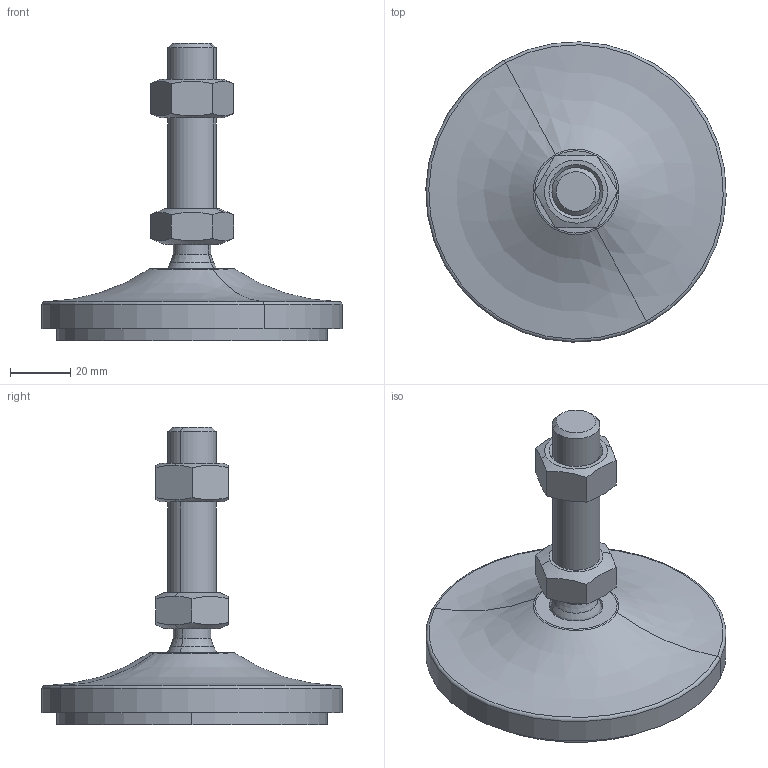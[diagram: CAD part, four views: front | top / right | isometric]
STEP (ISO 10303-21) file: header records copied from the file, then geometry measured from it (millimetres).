
FILE_DESCRIPTION(('CATIA V5 STEP Exchange'),'2;1');
FILE_NAME('C:\Users\ALI OZGUN\Desktop\alhan\saplama2\560102610AV.stp','2017-09-21T10:31:03+00:00',('none'),('none'),'CATIA Version 5 Release 21 GA (IN-10)','CATIA V5 STEP AP203','none');
FILE_SCHEMA(('CONFIG_CONTROL_DESIGN'));
Length unit declared in the file: millimetre
Products named in the file (1): 560102610AV
Bounding box: 99.97 x 99.97 x 99 mm (x, y, z)
Volume: 141907.4 mm3; surface area: 43299.9 mm2
Topology: 4 solids, 4 shells, 64 faces, 142 edges, 87 vertices
Faces by surface type: plane 22, cylinder 16, cone 16, torus 4, revolution 4, sphere 2
Entity records: 1954 total; most frequent: CARTESIAN_POINT 646, ORIENTED_EDGE 280, DIRECTION 197, EDGE_CURVE 140, AXIS2_PLACEMENT_3D 106, VERTEX_POINT 87, EDGE_LOOP 71, ADVANCED_FACE 64
